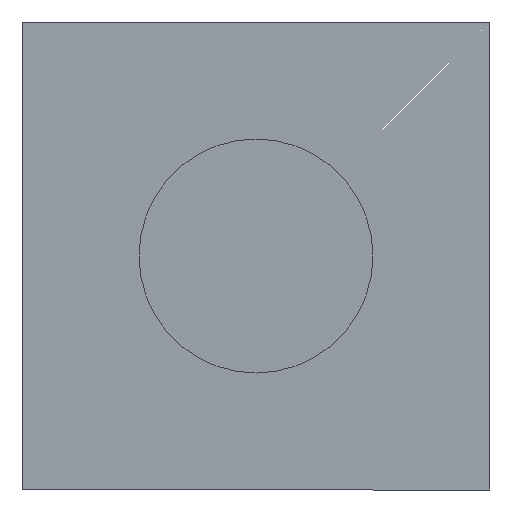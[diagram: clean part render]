
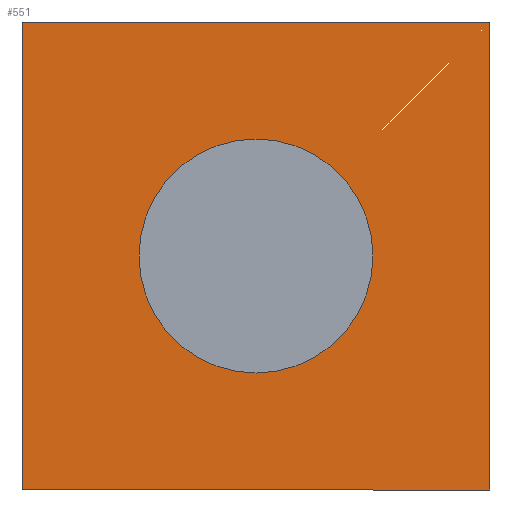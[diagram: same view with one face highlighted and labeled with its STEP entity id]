
A CAD part, front view. The second image highlights one B-rep face of the part: STEP entity #551.
In plain terms, the highlighted planar face has unit normal (0, -1, 0).
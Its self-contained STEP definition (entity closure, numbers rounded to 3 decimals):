
#125 = ORIENTED_EDGE ( 'NONE', *, *, #151, .T. ) ;
#151 = EDGE_CURVE ( 'NONE', #1221, #159, #533, .T. ) ;
#159 = VERTEX_POINT ( 'NONE', #292 ) ;
#163 = CARTESIAN_POINT ( 'NONE',  ( 10., 0., -10. ) ) ;
#199 = LINE ( 'NONE', #410, #1366 ) ;
#207 = EDGE_CURVE ( 'NONE', #1246, #159, #912, .T. ) ;
#241 = VERTEX_POINT ( 'NONE', #1143 ) ;
#274 = CARTESIAN_POINT ( 'NONE',  ( -10., 0., 10. ) ) ;
#292 = CARTESIAN_POINT ( 'NONE',  ( -10., 0., -10. ) ) ;
#297 = DIRECTION ( 'NONE',  ( -1., 0., 0. ) ) ;
#347 = EDGE_CURVE ( 'NONE', #241, #1246, #199, .T. ) ;
#355 = DIRECTION ( 'NONE',  ( 0., 0., -1. ) ) ;
#410 = CARTESIAN_POINT ( 'NONE',  ( 10., 0., 10. ) ) ;
#455 = DIRECTION ( 'NONE',  ( 0., 1., 0. ) ) ;
#464 = ORIENTED_EDGE ( 'NONE', *, *, #207, .F. ) ;
#478 = CARTESIAN_POINT ( 'NONE',  ( 0., 0., 0. ) ) ;
#505 = VECTOR ( 'NONE', #875, 1000. ) ;
#512 = PLANE ( 'NONE',  #986 ) ;
#533 = LINE ( 'NONE', #1242, #1303 ) ;
#551 = ADVANCED_FACE ( 'NONE', ( #1104 ), #512, .F. ) ;
#674 = ORIENTED_EDGE ( 'NONE', *, *, #347, .F. ) ;
#721 = DIRECTION ( 'NONE',  ( 0., 0., -1. ) ) ;
#751 = EDGE_LOOP ( 'NONE', ( #674, #1053, #125, #464 ) ) ;
#753 = EDGE_CURVE ( 'NONE', #241, #1221, #979, .T. ) ;
#775 = VECTOR ( 'NONE', #297, 1000. ) ;
#822 = CARTESIAN_POINT ( 'NONE',  ( 10., 0., -10. ) ) ;
#875 = DIRECTION ( 'NONE',  ( -1., 0., 0. ) ) ;
#912 = LINE ( 'NONE', #822, #775 ) ;
#979 = LINE ( 'NONE', #1083, #505 ) ;
#986 = AXIS2_PLACEMENT_3D ( 'NONE', #478, #455, #1089 ) ;
#1053 = ORIENTED_EDGE ( 'NONE', *, *, #753, .T. ) ;
#1083 = CARTESIAN_POINT ( 'NONE',  ( 10., 0., 10. ) ) ;
#1089 = DIRECTION ( 'NONE',  ( 0., 0., 1. ) ) ;
#1104 = FACE_OUTER_BOUND ( 'NONE', #751, .T. ) ;
#1143 = CARTESIAN_POINT ( 'NONE',  ( 10., 0., 10. ) ) ;
#1221 = VERTEX_POINT ( 'NONE', #274 ) ;
#1242 = CARTESIAN_POINT ( 'NONE',  ( -10., 0., 10. ) ) ;
#1246 = VERTEX_POINT ( 'NONE', #163 ) ;
#1303 = VECTOR ( 'NONE', #721, 1000. ) ;
#1366 = VECTOR ( 'NONE', #355, 1000. ) ;
